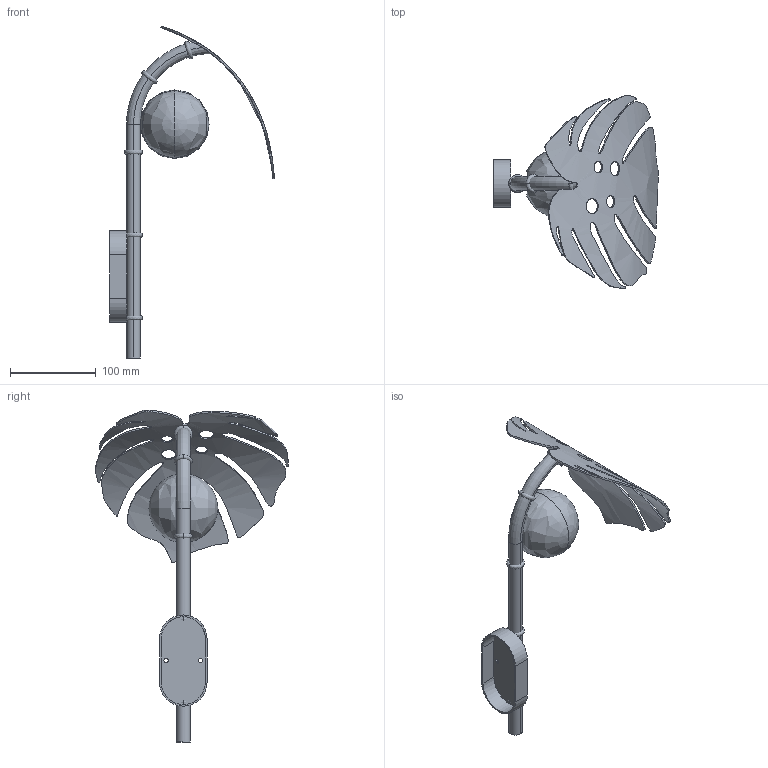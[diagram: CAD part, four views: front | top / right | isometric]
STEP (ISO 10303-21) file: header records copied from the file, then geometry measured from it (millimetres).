
FILE_DESCRIPTION(/* description */ (''),/* implementation_level */ '2;1');
FILE_NAME(/* name */ 'Folium Wall Lamp',/* time_stamp */ '2026-05-24T10:05:04+08:00',/* author */ (''),/* organization */ (''),/* preprocessor_version */ 'ST-DEVELOPER v19.2',/* originating_system */ 'Rhino 8.25',/* authorisation */ '');
FILE_SCHEMA (('CONFIG_CONTROL_DESIGN'));
Length unit declared in the file: millimetre
Products named in the file (1): Document
Bounding box: 191.76 x 224.52 x 386.22 mm (x, y, z)
Volume: 348263.9 mm3; surface area: 134645.7 mm2
Topology: 8 solids, 9 shells, 47 faces, 120 edges, 65 vertices
Faces by surface type: bspline 26, plane 11, cylinder 10
Entity records: 13113 total; most frequent: CARTESIAN_POINT 12249, ORIENTED_EDGE 185, EDGE_CURVE 96, DIRECTION 73, VERTEX_POINT 65, EDGE_LOOP 59, B_SPLINE_CURVE_WITH_KNOTS 52, ADVANCED_FACE 47
